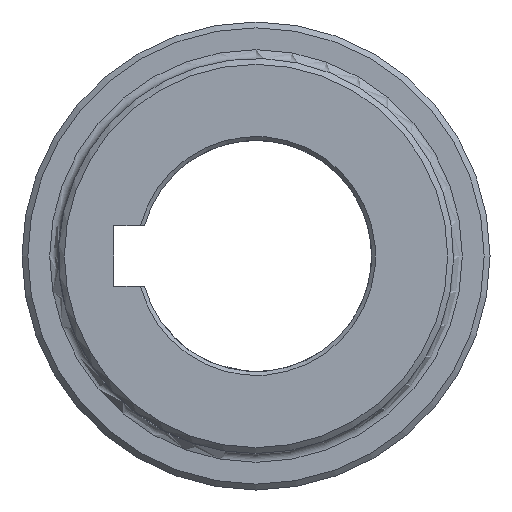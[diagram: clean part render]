
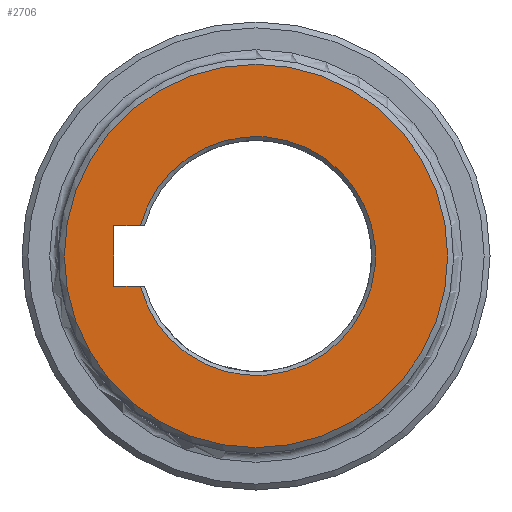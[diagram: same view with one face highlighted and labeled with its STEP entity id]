
A CAD part, left-side view. The second image highlights one B-rep face of the part: STEP entity #2706.
In plain terms, the highlighted planar face has unit normal (-1, 0, 0).
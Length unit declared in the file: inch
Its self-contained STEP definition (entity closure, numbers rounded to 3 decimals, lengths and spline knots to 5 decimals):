
#97 = DIRECTION ( 'NONE',  ( 0., 0., -1. ) ) ;
#102 = AXIS2_PLACEMENT_3D ( 'NONE', #561, #3041, #1425 ) ;
#112 = EDGE_CURVE ( 'NONE', #1924, #1757, #486, .T. ) ;
#182 = CARTESIAN_POINT ( 'NONE',  ( 0., 0., 0.3125 ) ) ;
#408 = ORIENTED_EDGE ( 'NONE', *, *, #112, .F. ) ;
#464 = CARTESIAN_POINT ( 'NONE',  ( 0., 1.4641, -0.3125 ) ) ;
#486 = LINE ( 'NONE', #182, #569 ) ;
#493 = CARTESIAN_POINT ( 'NONE',  ( 0., 0., 0. ) ) ;
#516 = VECTOR ( 'NONE', #1184, 39.37008 ) ;
#528 = CARTESIAN_POINT ( 'NONE',  ( 0., 1.4641, -0.3125 ) ) ;
#560 = EDGE_LOOP ( 'NONE', ( #1201 ) ) ;
#561 = CARTESIAN_POINT ( 'NONE',  ( 0., 0., 0. ) ) ;
#569 = VECTOR ( 'NONE', #2018, 39.37008 ) ;
#575 = VERTEX_POINT ( 'NONE', #528 ) ;
#715 = VERTEX_POINT ( 'NONE', #1883 ) ;
#907 = EDGE_CURVE ( 'NONE', #1757, #575, #2559, .T. ) ;
#960 = CIRCLE ( 'NONE', #2118, 1.97 ) ;
#1039 = EDGE_CURVE ( 'NONE', #575, #2947, #2733, .T. ) ;
#1074 = CARTESIAN_POINT ( 'NONE',  ( 0., 1.18747, -0.3125 ) ) ;
#1169 = EDGE_CURVE ( 'NONE', #1924, #2947, #3035, .T. ) ;
#1184 = DIRECTION ( 'NONE',  ( 0., 0., -1. ) ) ;
#1201 = ORIENTED_EDGE ( 'NONE', *, *, #1700, .T. ) ;
#1236 = ORIENTED_EDGE ( 'NONE', *, *, #907, .F. ) ;
#1415 = CARTESIAN_POINT ( 'NONE',  ( 0., 0., -0.3125 ) ) ;
#1425 = DIRECTION ( 'NONE',  ( 0., 0., -1. ) ) ;
#1475 = PLANE ( 'NONE',  #102 ) ;
#1478 = FACE_OUTER_BOUND ( 'NONE', #560, .T. ) ;
#1542 = ORIENTED_EDGE ( 'NONE', *, *, #1039, .F. ) ;
#1580 = CARTESIAN_POINT ( 'NONE',  ( 0., 0., 0. ) ) ;
#1581 = FACE_BOUND ( 'NONE', #1659, .T. ) ;
#1659 = EDGE_LOOP ( 'NONE', ( #408, #3097, #1542, #1236 ) ) ;
#1700 = EDGE_CURVE ( 'NONE', #715, #715, #960, .T. ) ;
#1719 = VECTOR ( 'NONE', #2472, 39.37008 ) ;
#1757 = VERTEX_POINT ( 'NONE', #1831 ) ;
#1831 = CARTESIAN_POINT ( 'NONE',  ( 0., 1.4641, 0.3125 ) ) ;
#1883 = CARTESIAN_POINT ( 'NONE',  ( 0., 0., -1.97 ) ) ;
#1924 = VERTEX_POINT ( 'NONE', #2625 ) ;
#1967 = AXIS2_PLACEMENT_3D ( 'NONE', #493, #2130, #2846 ) ;
#1980 = DIRECTION ( 'NONE',  ( -1., 0., 0. ) ) ;
#2018 = DIRECTION ( 'NONE',  ( 0., 1., 0. ) ) ;
#2118 = AXIS2_PLACEMENT_3D ( 'NONE', #1580, #1980, #97 ) ;
#2130 = DIRECTION ( 'NONE',  ( 1., 0., 0. ) ) ;
#2472 = DIRECTION ( 'NONE',  ( 0., -1., 0. ) ) ;
#2559 = LINE ( 'NONE', #464, #516 ) ;
#2625 = CARTESIAN_POINT ( 'NONE',  ( 0., 1.18747, 0.3125 ) ) ;
#2706 = ADVANCED_FACE ( 'NONE', ( #1478, #1581 ), #1475, .F. ) ;
#2733 = LINE ( 'NONE', #1415, #1719 ) ;
#2846 = DIRECTION ( 'NONE',  ( 0., 0., -1. ) ) ;
#2947 = VERTEX_POINT ( 'NONE', #1074 ) ;
#3035 = CIRCLE ( 'NONE', #1967, 1.2279 ) ;
#3041 = DIRECTION ( 'NONE',  ( 1., 0., 0. ) ) ;
#3097 = ORIENTED_EDGE ( 'NONE', *, *, #1169, .T. ) ;
